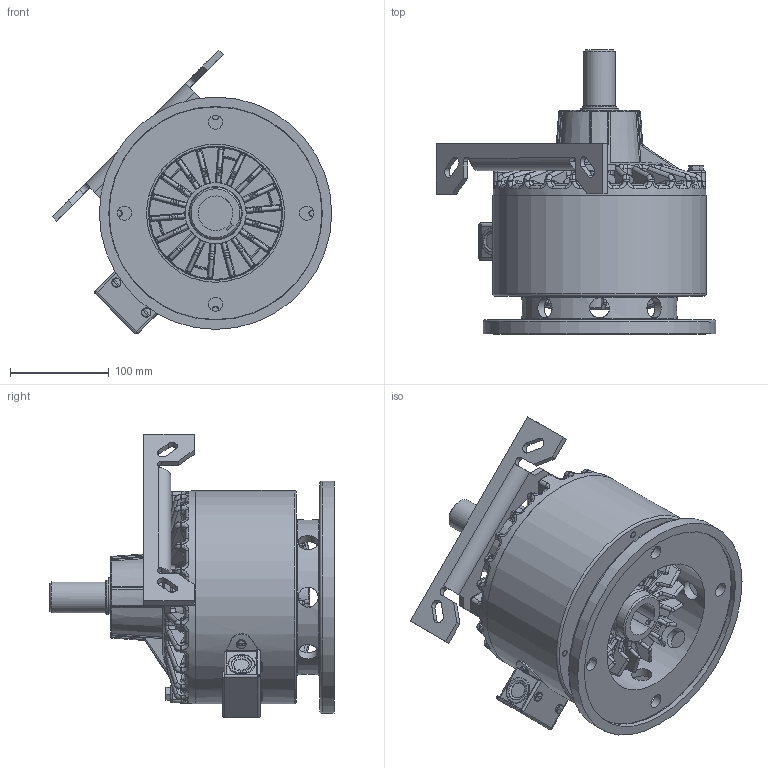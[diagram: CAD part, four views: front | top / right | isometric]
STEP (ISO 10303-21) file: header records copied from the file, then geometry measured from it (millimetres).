
FILE_DESCRIPTION(/* description */ ('STEP AP214'),/* implementation_level */ '2;1');
FILE_NAME(/* name */ '50MC90F20_stp.step',/* time_stamp */ '2026-05-13T10:37:19-05:00',/* author */ (''),/* organization */ (''),/* preprocessor_version */ 'ST-DEVELOPER v20.1',/* originating_system */ 'Autodesk Translation Framework v15.8.0.0',/* authorisation */ '');
FILE_SCHEMA (('AUTOMOTIVE_DESIGN { 1 0 10303 214 3 1 1 }'));
Products named in the file (1): 50MC90F20_asm_stp
Bounding box: 282.54 x 287.2 x 287.02 mm (x, y, z)
Volume: 3614056.3 mm3; surface area: 703937.2 mm2
Topology: 5 solids, 14 shells, 2321 faces, 5830 edges, 3488 vertices
Faces by surface type: bspline 698, cylinder 604, plane 449, torus 284, cone 166, sphere 120
Full cylindrical faces by diameter (mm): 3.795 x4, 4.039 x4, 5.105 x2, 6.35 x4, 6.528 x4, 7.938 x4, 9.474 x4, 9.525 x4, 9.576 x6, 12.7 x1, 14.287 x4, 17.475 x1, 20.32 x8, 22.225 x3, 25.4 x1, 31.674 x1, 33.401 x2, 34.138 x1, 34.884 x2, 34.999 x2, 35 x1, 40.4 x4, 52.4 x1, 53.975 x1, 54.71 x2, 56.6 x4, 61.9 x1, 61.985 x2, 66.726 x1, 72.847 x1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
Entity records: 107748 total; most frequent: CARTESIAN_POINT 56542, ORIENTED_EDGE 11530, DIRECTION 9978, EDGE_CURVE 5765, AXIS2_PLACEMENT_3D 4246, VERTEX_POINT 3496, CIRCLE 2515, EDGE_LOOP 2481
